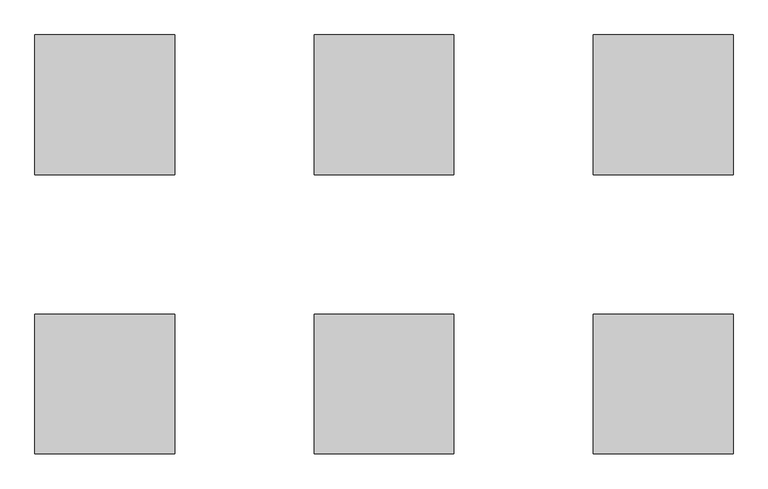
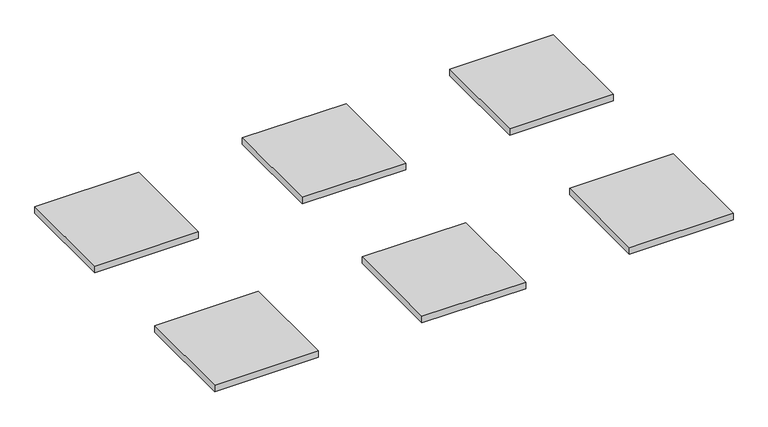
"""IFC4 building model written with IfcOpenShell, lengths in millimetres: proxy geometry, Стандартные цвета : Стандартные цвета."""

from ifc_helpers import new_model, si_unit, origin, origin_with_axes, place, context, project, spatial, polyline, outline, extrude, source, transform, mapped, element, save


def generic_models_7526b103(model_context):
    return source(origin(), model_context, "Body", "SweptSolid", [
        extrude(outline(polyline([(7500.0, -3000.0), (6000.0, -3000.0), (6000.0, -1500.0), (7500.0, -1500.0), (7500.0, -3000.0)])), origin_with_axes(), (0.0, 0.0, 1.0), 100.0),
        extrude(outline(polyline([(4500.0, -3000.0), (3000.0, -3000.0), (3000.0, -1500.0), (4500.0, -1500.0), (4500.0, -3000.0)])), origin_with_axes(), (0.0, 0.0, 1.0), 100.0),
        extrude(outline(polyline([(1500.0, -3000.0), (0.0, -3000.0), (0.0, -1500.0), (1500.0, -1500.0), (1500.0, -3000.0)])), origin_with_axes(), (0.0, 0.0, 1.0), 100.0),
        extrude(outline(polyline([(7500.0, 0.0), (6000.0, 0.0), (6000.0, 1500.0), (7500.0, 1500.0), (7500.0, 0.0)])), origin_with_axes(), (0.0, 0.0, 1.0), 100.0),
        extrude(outline(polyline([(4500.0, 0.0), (3000.0, 0.0), (3000.0, 1500.0), (4500.0, 1500.0), (4500.0, 0.0)])), origin_with_axes(), (0.0, 0.0, 1.0), 100.0),
        extrude(outline(polyline([(1500.0, 0.0), (0.0, 0.0), (0.0, 1500.0), (1500.0, 1500.0), (1500.0, 0.0)])), origin_with_axes(), (0.0, 0.0, 1.0), 100.0),
    ])


if __name__ == "__main__":
    model = new_model("IFC4")
    model_context = context("Model", 3, world=origin())
    ifc_project = project(units=[si_unit("LENGTHUNIT", "METRE", prefix="MILLI")], contexts=[model_context])
    site = spatial("IfcSite", under=ifc_project)
    building = spatial("IfcBuilding", under=site)
    placement = place(None, origin())
    generic_models_shape = generic_models_7526b103(model_context)
    element("IfcBuildingElementProxy", 1, Name="Стандартные цвета : Стандартные цвета", ObjectType="Стандартные цвета : Стандартные цвета", at=placement, inside=building, context=model_context, shape_type="MappedRepresentation", body=[
        mapped(generic_models_shape, transform((0.0, 0.0, 0.0), x_axis=(1.0, 0.0, 0.0), y_axis=(0.0, 1.0, 0.0), z_axis=(0.0, 0.0, 1.0))),
    ])
    save(model, "model.ifc")
